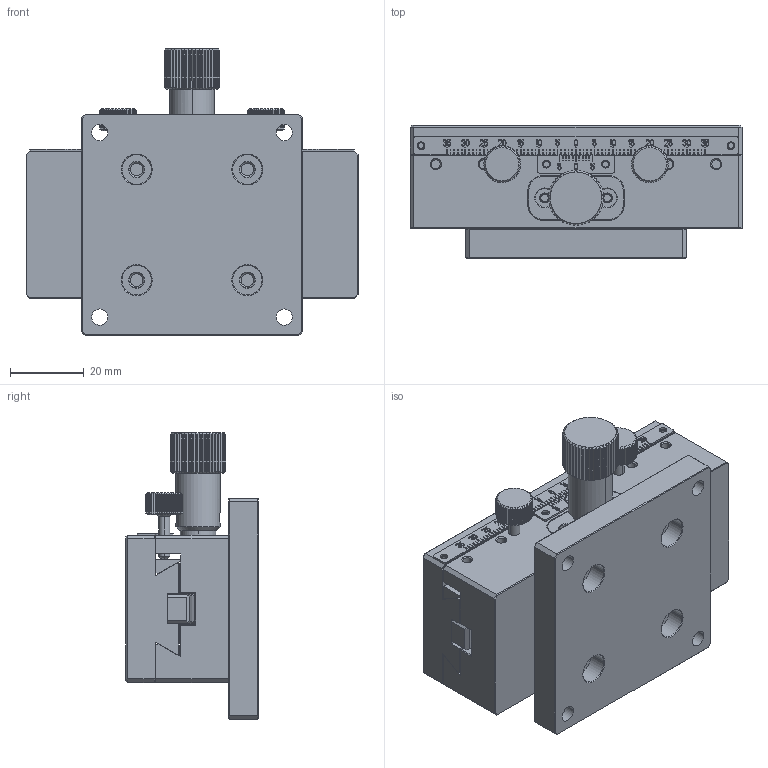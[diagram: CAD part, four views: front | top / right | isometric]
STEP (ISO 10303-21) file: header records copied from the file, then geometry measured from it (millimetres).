
FILE_DESCRIPTION((''),'2;1');
FILE_NAME('ASSY-40-90-ST70-MSM_ASM','2021-11-11T19:01:41',('windows10'),(''),'CREO PARAMETRIC BY PTC INC, 2018260','CREO PARAMETRIC BY PTC INC, 2018260','');
FILE_SCHEMA(('CONFIG_CONTROL_DESIGN'));
Products named in the file (15): BOTTOM-40-90-F-MSM; HOLDER-PINION-4D5; PINION-4-29; WHASHER-9D6-4D1-1D2; HANDLE-15-26D6; ASSY-HANDLE-15-47D8_ASM; TOP-40-90-M-MSM; RACK-8-6-90; 3-8; ASSY-TOP-40-90-M-MSM_ASM; RULER-PLATE-21-BOTTOM; RULER-PLATE-90-TOP; STOPPER-10-M3-18; BASE-60; ASSY-40-90-ST70-MSM_ASM
Assembly tree (16 placements, depth 3):
  ASSY-40-90-ST70-MSM_ASM
    BOTTOM-40-90-F-MSM
    ASSY-HANDLE-15-47D8_ASM
      HOLDER-PINION-4D5
      PINION-4-29
      WHASHER-9D6-4D1-1D2
      HANDLE-15-26D6
    ASSY-TOP-40-90-M-MSM_ASM
      TOP-40-90-M-MSM
      RACK-8-6-90
      3-8  x2
    RULER-PLATE-21-BOTTOM
    RULER-PLATE-90-TOP
    STOPPER-10-M3-18  x2
    BASE-60
Bounding box: 90 x 36 x 77.8 mm (x, y, z)
Volume: 126643.7 mm3; surface area: 49451.2 mm2
Topology: 14 solids, 14 shells, 2491 faces, 6920 edges, 4533 vertices
Faces by surface type: plane 1992, cylinder 327, cone 164, bspline 4, sphere 4
Entity records: 74846 total; most frequent: CARTESIAN_POINT 15167, ORIENTED_EDGE 12870, DIRECTION 11455, EDGE_CURVE 6435, VECTOR 5345, LINE 5345, VERTEX_POINT 4220, AXIS2_PLACEMENT_3D 3055
